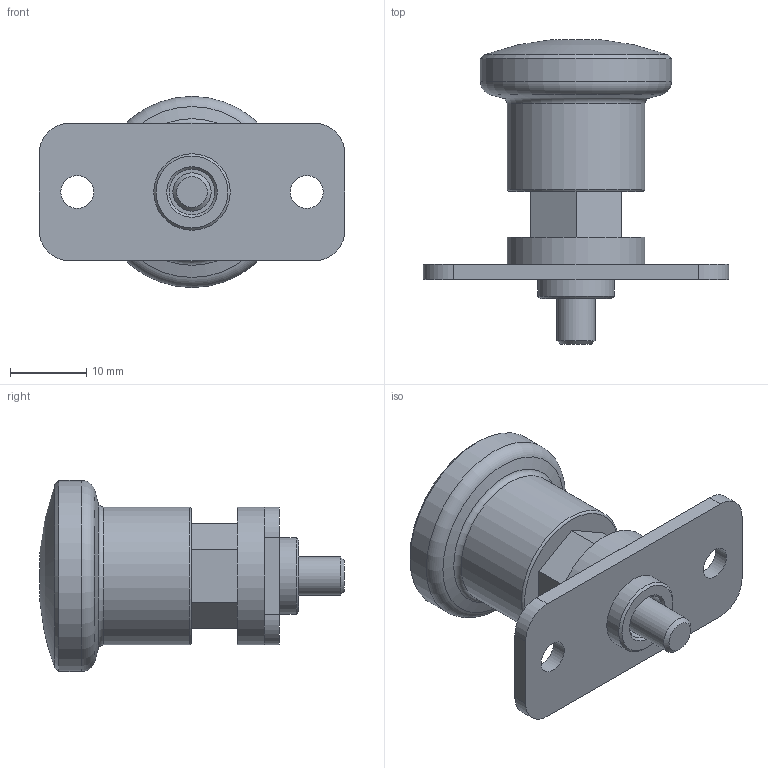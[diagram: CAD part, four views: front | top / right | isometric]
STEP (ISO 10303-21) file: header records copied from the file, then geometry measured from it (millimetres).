
FILE_DESCRIPTION( ( 'STEP AP203' ), '1' );
FILE_NAME( 'C:/Temp/Ganter_Step_05_03_2020/data/3_1/gn822_9/gn822_9_b/Stainless Steel-Mini indexing plunger GN 822.9-5-12-B (activated).stp', '2020-03-12T09:24:29', ( 'License CC BY-ND 4.0' ), ( 'CADENAS' ), ' ', 'PARTsolutions', ' ' );
FILE_SCHEMA( ( 'CONFIG_CONTROL_DESIGN' ) );
Length unit declared in the file: millimetre
Products named in the file (3): Stainless Steel-Mini indexing plunger GN 822.9-5-12-B (activated); _Stainless Steel-Mini indexing plunger GN 822.9-5-12-B (deactivated)_1; _Stainless Steel-Mini indexing plunger GN 822.9-5-12-B (unbetaetigt)_2
Assembly tree (2 placements, depth 2):
  Stainless Steel-Mini indexing plunger GN 822.9-5-12-B (activated)
    _Stainless Steel-Mini indexing plunger GN 822.9-5-12-B (deactivated)_1
    _Stainless Steel-Mini indexing plunger GN 822.9-5-12-B (unbetaetigt)_2
Bounding box: 40 x 39.87 x 25 mm (x, y, z)
Volume: 8728.1 mm3; surface area: 6316.2 mm2
Topology: 2 solids, 2 shells, 56 faces, 122 edges, 77 vertices
Faces by surface type: plane 29, cylinder 15, cone 8, torus 3, sphere 1
Full cylindrical faces by diameter (mm): 4 x1, 4.2 x1, 4.3 x2, 5 x1, 6 x2, 10 x1, 18 x2, 25 x1
Entity records: 1626 total; most frequent: CARTESIAN_POINT 377, DIRECTION 244, ORIENTED_EDGE 192, AXIS2_PLACEMENT_3D 101, EDGE_CURVE 96, EDGE_LOOP 92, VERTEX_POINT 74, FACE_OUTER_BOUND 71
